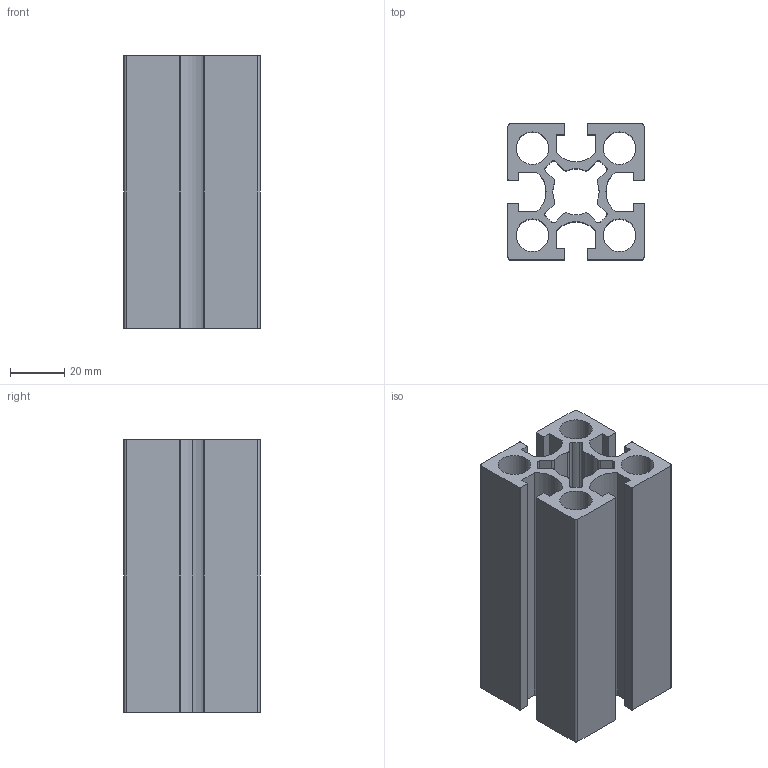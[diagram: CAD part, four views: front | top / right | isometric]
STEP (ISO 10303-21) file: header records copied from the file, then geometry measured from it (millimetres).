
FILE_DESCRIPTION (( 'STEP AP203' ), '1' );
FILE_NAME ('WS5050-8.STEP', '2024-02-19T05:36:59', ( '' ), ( '' ), 'SwSTEP 2.0', 'SolidWorks 2022', '' );
FILE_SCHEMA (( 'CONFIG_CONTROL_DESIGN' ));
Length unit declared in the file: millimetre
Products named in the file (1): WS5050-8
Bounding box: 50 x 50 x 100 mm (x, y, z)
Volume: 104926.7 mm3; surface area: 60816.2 mm2
Topology: 1 solids, 1 shells, 96 faces, 282 edges, 188 vertices
Faces by surface type: cylinder 54, plane 42
Entity records: 3331 total; most frequent: DIRECTION 584, CARTESIAN_POINT 567, ORIENTED_EDGE 564, EDGE_CURVE 282, AXIS2_PLACEMENT_3D 205, VERTEX_POINT 188, LINE 174, VECTOR 174
